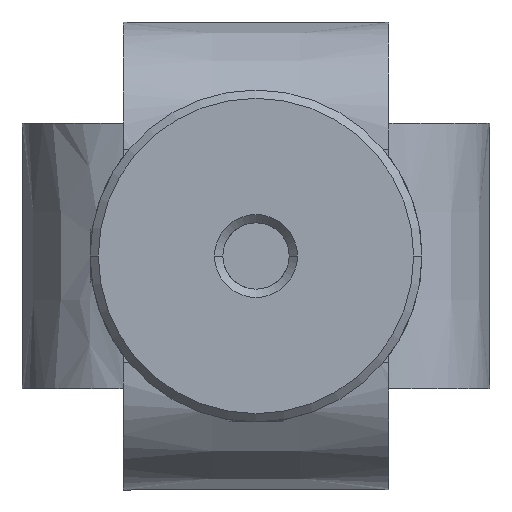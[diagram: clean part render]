
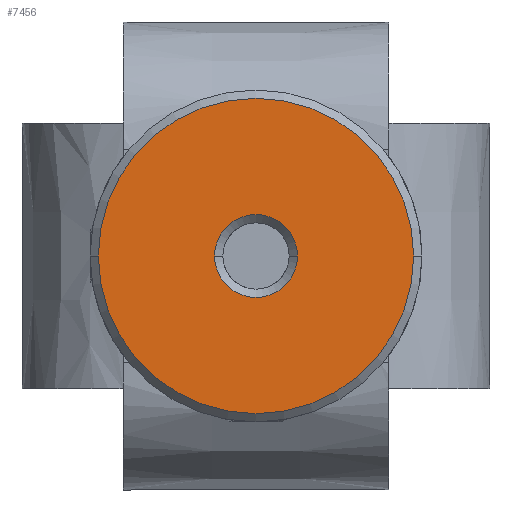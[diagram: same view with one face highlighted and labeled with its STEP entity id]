
A CAD part, front view. The second image highlights one B-rep face of the part: STEP entity #7456.
In plain terms, the highlighted planar face has unit normal (0, -1, 0).
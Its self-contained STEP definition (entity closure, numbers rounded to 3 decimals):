
#394 = DIRECTION ( 'NONE',  ( -1., 0., 0. ) ) ;
#447 = VERTEX_POINT ( 'NONE', #7589 ) ;
#473 = FACE_BOUND ( 'NONE', #7266, .T. ) ;
#625 = DIRECTION ( 'NONE',  ( -1., 0., 0. ) ) ;
#642 = ORIENTED_EDGE ( 'NONE', *, *, #4344, .T. ) ;
#940 = AXIS2_PLACEMENT_3D ( 'NONE', #5362, #1782, #1222 ) ;
#1194 = PLANE ( 'NONE',  #5442 ) ;
#1222 = DIRECTION ( 'NONE',  ( -1., 0., 0. ) ) ;
#1429 = CARTESIAN_POINT ( 'NONE',  ( -9.5, -35.24, 0. ) ) ;
#1565 = CIRCLE ( 'NONE', #940, 9.5 ) ;
#1656 = AXIS2_PLACEMENT_3D ( 'NONE', #3435, #4038, #394 ) ;
#1782 = DIRECTION ( 'NONE',  ( 0., -1., 0. ) ) ;
#1818 = EDGE_CURVE ( 'NONE', #1946, #447, #6890, .T. ) ;
#1946 = VERTEX_POINT ( 'NONE', #2575 ) ;
#2542 = EDGE_LOOP ( 'NONE', ( #2706, #642 ) ) ;
#2575 = CARTESIAN_POINT ( 'NONE',  ( -2.5, -35.24, 0. ) ) ;
#2706 = ORIENTED_EDGE ( 'NONE', *, *, #6322, .T. ) ;
#2824 = VERTEX_POINT ( 'NONE', #1429 ) ;
#2973 = DIRECTION ( 'NONE',  ( 0., -1., 0. ) ) ;
#2994 = CIRCLE ( 'NONE', #1656, 2.5 ) ;
#3038 = CARTESIAN_POINT ( 'NONE',  ( 0., -35.24, 0. ) ) ;
#3435 = CARTESIAN_POINT ( 'NONE',  ( 0., -35.24, 0. ) ) ;
#3601 = CARTESIAN_POINT ( 'NONE',  ( 0., -35.24, 0. ) ) ;
#3624 = DIRECTION ( 'NONE',  ( -1., 0., 0. ) ) ;
#3680 = DIRECTION ( 'NONE',  ( 0., 1., 0. ) ) ;
#4038 = DIRECTION ( 'NONE',  ( 0., 1., 0. ) ) ;
#4344 = EDGE_CURVE ( 'NONE', #2824, #6601, #1565, .T. ) ;
#4366 = FACE_OUTER_BOUND ( 'NONE', #2542, .T. ) ;
#5181 = CARTESIAN_POINT ( 'NONE',  ( 9.5, -35.24, 0. ) ) ;
#5335 = ORIENTED_EDGE ( 'NONE', *, *, #5471, .T. ) ;
#5362 = CARTESIAN_POINT ( 'NONE',  ( 0., -35.24, 0. ) ) ;
#5414 = DIRECTION ( 'NONE',  ( 0., -1., 0. ) ) ;
#5442 = AXIS2_PLACEMENT_3D ( 'NONE', #3038, #5414, #6019 ) ;
#5471 = EDGE_CURVE ( 'NONE', #447, #1946, #2994, .T. ) ;
#5576 = CIRCLE ( 'NONE', #5624, 9.5 ) ;
#5624 = AXIS2_PLACEMENT_3D ( 'NONE', #3601, #2973, #3624 ) ;
#6007 = ORIENTED_EDGE ( 'NONE', *, *, #1818, .T. ) ;
#6019 = DIRECTION ( 'NONE',  ( -1., 0., 0. ) ) ;
#6322 = EDGE_CURVE ( 'NONE', #6601, #2824, #5576, .T. ) ;
#6601 = VERTEX_POINT ( 'NONE', #5181 ) ;
#6747 = AXIS2_PLACEMENT_3D ( 'NONE', #7238, #3680, #625 ) ;
#6890 = CIRCLE ( 'NONE', #6747, 2.5 ) ;
#7238 = CARTESIAN_POINT ( 'NONE',  ( 0., -35.24, 0. ) ) ;
#7266 = EDGE_LOOP ( 'NONE', ( #6007, #5335 ) ) ;
#7456 = ADVANCED_FACE ( 'NONE', ( #473, #4366 ), #1194, .T. ) ;
#7589 = CARTESIAN_POINT ( 'NONE',  ( 2.5, -35.24, 0. ) ) ;
